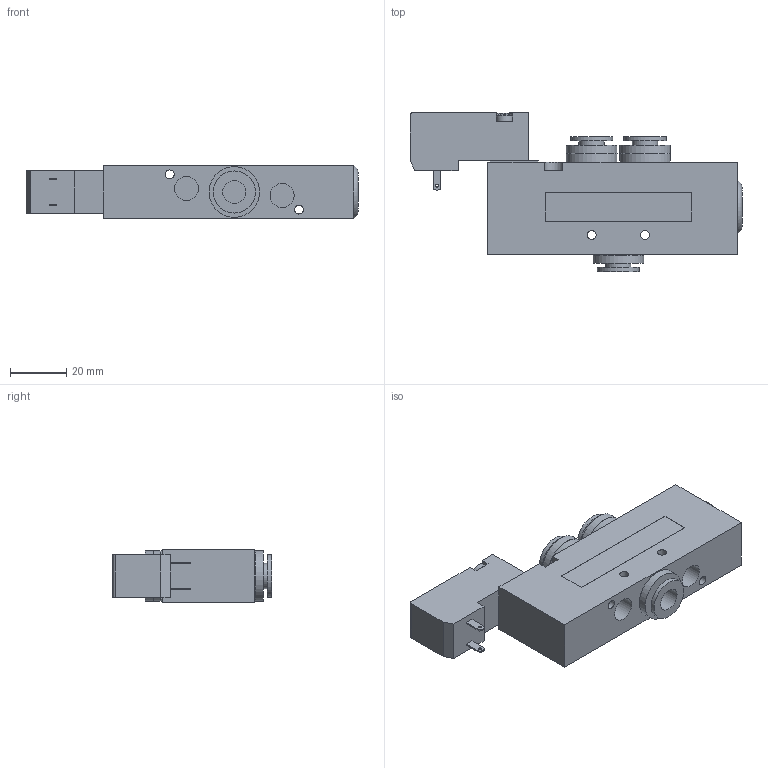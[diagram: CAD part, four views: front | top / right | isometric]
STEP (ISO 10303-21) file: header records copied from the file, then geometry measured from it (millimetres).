
FILE_DESCRIPTION((''),'2;1');
FILE_NAME('K:\A-Roberto\Rev.Librerie\Step-Igs\COPIA 2400\2400 LINE\2418_52_00_36_1#.stp','2006-01-04T09:31:07',('rivolro1'),(''),'Autodesk Inventor 10','Autodesk Inventor 10','');
FILE_SCHEMA(('AUTOMOTIVE_DESIGN { 1 0 10303 214 1 1 1 1 }'));
Length unit declared in the file: millimetre
Products named in the file (3): 2418_52_00_36_1#; 2418_52_00_36; N33_-R0_
Assembly tree (2 placements, depth 2):
  2418_52_00_36_1#
    2418_52_00_36
    N33_-R0_
Bounding box: 118.1 x 56.7 x 18.5 mm (x, y, z)
Volume: 67944 mm3; surface area: 18919.3 mm2
Topology: 3 solids, 3 shells, 166 faces, 383 edges, 254 vertices
Faces by surface type: plane 105, bspline 30, cylinder 26, cone 3, torus 1, sphere 1
Full cylindrical faces by diameter (mm): 1 x2, 3 x1, 3.9 x1, 5.8 x1, 8.2 x3, 9 x3, 15 x3, 18 x5
Entity records: 4742 total; most frequent: CARTESIAN_POINT 1112, DIRECTION 726, ORIENTED_EDGE 652, EDGE_CURVE 326, AXIS2_PLACEMENT_3D 259, EDGE_LOOP 252, VERTEX_POINT 240, VECTOR 208
